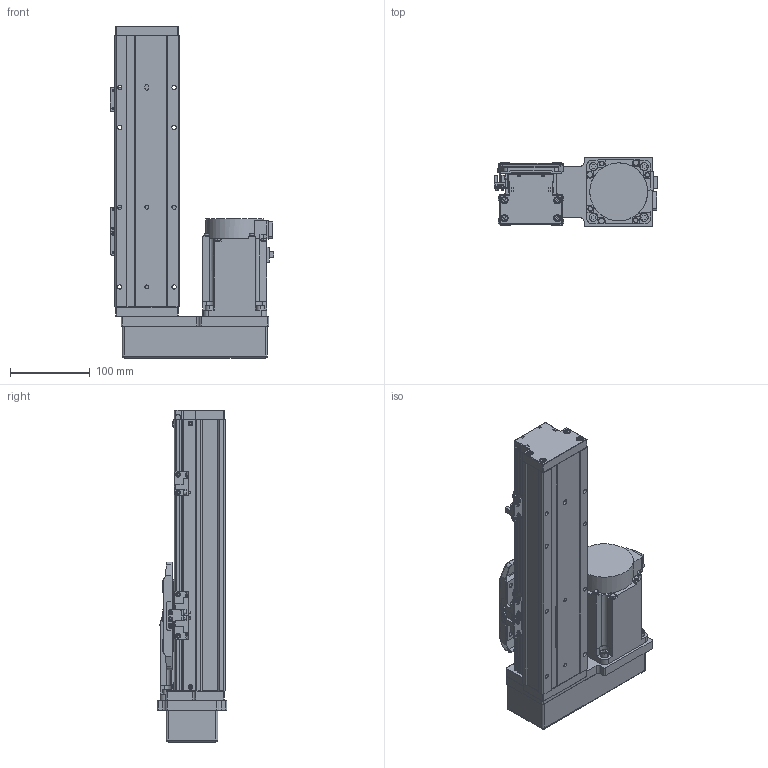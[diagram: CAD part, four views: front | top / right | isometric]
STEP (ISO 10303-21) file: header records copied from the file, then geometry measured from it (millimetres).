
FILE_DESCRIPTION (( 'STEP AP203' ), '1' );
FILE_NAME ('GTH8-150-BR-M75-C4.step', '2023-02-14T02:32:34', ( '微软用户' ), ( '微软中国' ), 'SwSTEP 2.0', 'SolidWorks 2020', '' );
FILE_SCHEMA (( 'CONFIG_CONTROL_DESIGN' ));
Length unit declared in the file: millimetre
Products named in the file (18): GTH50-024; GTH8-150-BR-M75-C4; GTH80-013; GTH50-023; GTH80-001_150; GBT 70.3-M3℅6; GBT96.1-2002 3×0.8; GTH80-003; GTH80-022; BTH-M3X5X6; GTH80-004; GBT 70.1-M3℅6; CTHA86-015-3_CTHA86-015-4; GTH80-006; GBT 70.1-M4×16; CTHA86-035; GTH80-028; hg-kn73j_-s100
Assembly tree (57 placements, depth 2):
  GTH8-150-BR-M75-C4
    GTH80-001_150
    GTH80-003
    GTH80-004
    GTH80-006
    GTH80-013
    GBT 70.3-M3℅6  x4
    GTH80-022
    GBT 70.1-M3℅6  x14
    GBT 70.1-M4×16  x8
    GTH80-028  x2
    GTH50-024  x3
    GTH50-023  x3
    GBT96.1-2002 3×0.8  x6
    BTH-M3X5X6  x8
    CTHA86-015-3_CTHA86-015-4
    CTHA86-035
    hg-kn73j_-s100
Bounding box: 204.7 x 87 x 416 mm (x, y, z)
Volume: 3020303.1 mm3; surface area: 355202.3 mm2
Topology: 59 solids, 59 shells, 2179 faces, 5046 edges, 3088 vertices
Faces by surface type: plane 1153, cylinder 611, cone 243, torus 158, sphere 12, bspline 2
Entity records: 38996 total; most frequent: CARTESIAN_POINT 6551, DIRECTION 6417, ORIENTED_EDGE 5902, EDGE_CURVE 2951, AXIS2_PLACEMENT_3D 2254, VECTOR 1909, LINE 1909, VERTEX_POINT 1863
